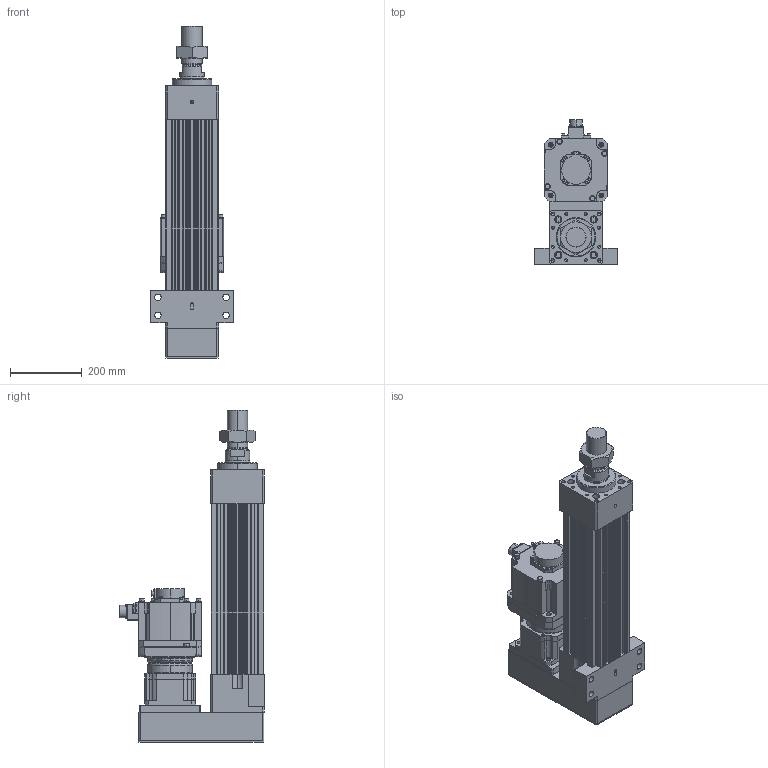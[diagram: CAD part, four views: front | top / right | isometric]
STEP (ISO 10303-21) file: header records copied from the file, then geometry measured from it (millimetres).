
FILE_DESCRIPTION (( 'STEP AP203' ), '1' );
FILE_NAME ('HES150NS(HS)-P200-W035G00-M-FFC.STEP', '2023-01-31T09:29:13', ( 'tms' ), ( '' ), 'SwSTEP 2.0', 'SolidWorks 2013', '' );
FILE_SCHEMA (( 'CONFIG_CONTROL_DESIGN' ));
Length unit declared in the file: millimetre
Products named in the file (9): HES150-P200-G142-FFC; P1301500001; AB142-003[HG-SR352]; HG-SR352; M56X2.0P; AB1421; HES150NS(HS)-P200-W035G00-M-FFC; HES150 ROD M ST200; P0403500801
Assembly tree (8 placements, depth 3):
  HES150NS(HS)-P200-W035G00-M-FFC
    HES150-P200-G142-FFC
    HES150 ROD M ST200
    M56X2.0P
    AB142-003[HG-SR352]
      AB1421
      P1301500001
      P0403500801
    HG-SR352
Bounding box: 230 x 403.85 x 926 mm (x, y, z)
Volume: 17118722.7 mm3; surface area: 1620574.7 mm2
Topology: 4 solids, 18 shells, 1470 faces, 3831 edges, 2471 vertices
Faces by surface type: cylinder 693, plane 529, cone 166, bspline 76, torus 6
Entity records: 53945 total; most frequent: CARTESIAN_POINT 16549, DIRECTION 7839, ORIENTED_EDGE 7520, EDGE_CURVE 3782, AXIS2_PLACEMENT_3D 2986, VERTEX_POINT 2471, LINE 1867, VECTOR 1867
